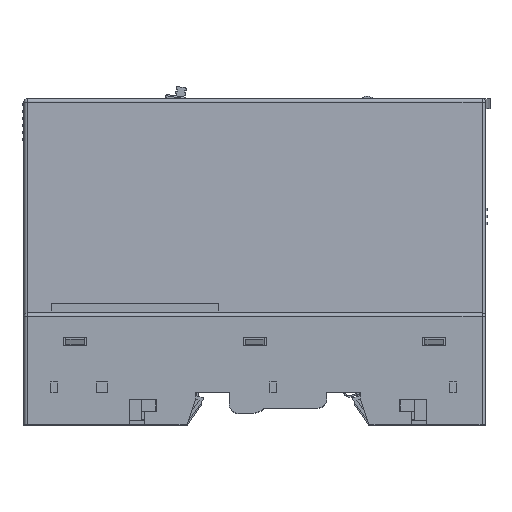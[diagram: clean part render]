
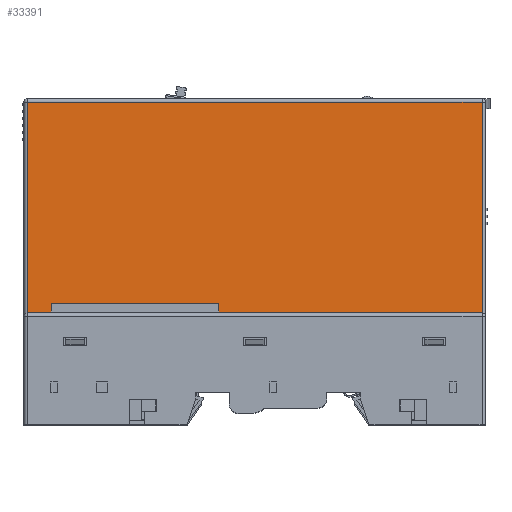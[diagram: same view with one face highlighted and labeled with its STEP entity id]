
A CAD part, top view. The second image highlights one B-rep face of the part: STEP entity #33391.
In plain terms, the highlighted planar face has unit normal (0, 0.018, 1).
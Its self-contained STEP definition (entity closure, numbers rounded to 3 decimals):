
#5547=DIRECTION('',(-1.,0.,0.));
#5548=VECTOR('',#5547,96.6);
#5549=CARTESIAN_POINT('',(48.3,24.,29.965));
#5550=LINE('',#5549,#5548);
#5551=DIRECTION('',(-1.,0.,0.));
#5552=VECTOR('',#5551,0.45);
#5553=CARTESIAN_POINT('',(-48.3,24.,29.965));
#5554=LINE('',#5553,#5552);
#5555=DIRECTION('',(0.,1.,-0.017));
#5556=VECTOR('',#5555,45.27);
#5557=CARTESIAN_POINT('',(-48.75,24.,29.965));
#5558=LINE('',#5557,#5556);
#5559=DIRECTION('',(1.,0.,0.));
#5560=VECTOR('',#5559,97.5);
#5561=CARTESIAN_POINT('',(-48.75,69.263,29.175));
#5562=LINE('',#5561,#5560);
#5563=DIRECTION('',(0.,-1.,0.017));
#5564=VECTOR('',#5563,45.27);
#5565=CARTESIAN_POINT('',(48.75,69.263,29.175));
#5566=LINE('',#5565,#5564);
#5567=DIRECTION('',(-1.,0.,0.));
#5568=VECTOR('',#5567,0.45);
#5569=CARTESIAN_POINT('',(48.75,24.,29.965));
#5570=LINE('',#5569,#5568);
#22543=CARTESIAN_POINT('',(48.75,24.,29.965));
#22545=VERTEX_POINT('',#22543);
#22546=CARTESIAN_POINT('',(48.75,69.263,29.175));
#22547=VERTEX_POINT('',#22546);
#22552=CARTESIAN_POINT('',(-48.75,69.263,29.175));
#22553=VERTEX_POINT('',#22552);
#22554=CARTESIAN_POINT('',(-48.75,24.,29.965));
#22555=VERTEX_POINT('',#22554);
#24958=CARTESIAN_POINT('',(-48.3,24.,29.965));
#24960=VERTEX_POINT('',#24958);
#24964=CARTESIAN_POINT('',(48.3,24.,29.965));
#24965=VERTEX_POINT('',#24964);
#33375=CARTESIAN_POINT('',(-51.102,22.,30.));
#33376=DIRECTION('',(0.,-0.017,-1.));
#33377=DIRECTION('',(-1.,0.,0.));
#33378=AXIS2_PLACEMENT_3D('',#33375,#33376,#33377);
#33379=PLANE('',#33378);
#33380=ORIENTED_EDGE('',*,*,#33365,.T.);
#33381=ORIENTED_EDGE('',*,*,#25586,.T.);
#33383=ORIENTED_EDGE('',*,*,#33382,.T.);
#33385=ORIENTED_EDGE('',*,*,#33384,.T.);
#33387=ORIENTED_EDGE('',*,*,#33386,.T.);
#33388=ORIENTED_EDGE('',*,*,#25578,.T.);
#33389=EDGE_LOOP('',(#33380,#33381,#33383,#33385,#33387,#33388));
#33390=FACE_OUTER_BOUND('',#33389,.F.);
#33391=ADVANCED_FACE('',(#33390),#33379,.F.);
#25578=EDGE_CURVE('',#22545,#24965,#5570,.T.);
#25586=EDGE_CURVE('',#24960,#22555,#5554,.T.);
#33365=EDGE_CURVE('',#24965,#24960,#5550,.T.);
#33382=EDGE_CURVE('',#22555,#22553,#5558,.T.);
#33384=EDGE_CURVE('',#22553,#22547,#5562,.T.);
#33386=EDGE_CURVE('',#22547,#22545,#5566,.T.);
